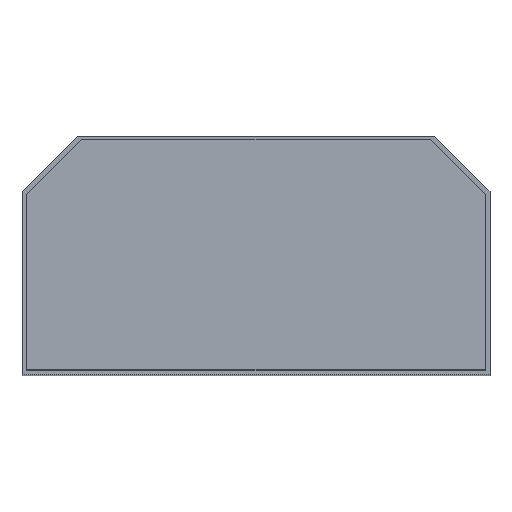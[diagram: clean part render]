
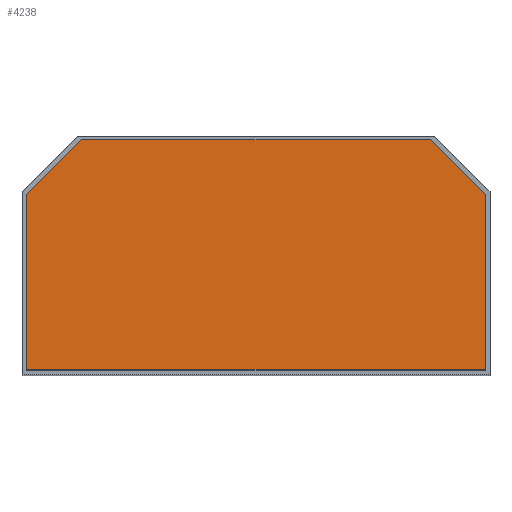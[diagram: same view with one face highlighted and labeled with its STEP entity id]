
A CAD part, top view. The second image highlights one B-rep face of the part: STEP entity #4238.
In plain terms, the highlighted planar face has unit normal (0, 0, 1).
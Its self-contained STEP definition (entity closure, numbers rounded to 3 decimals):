
#3793 = PLANE('',#3794);
#3794 = AXIS2_PLACEMENT_3D('',#3795,#3796,#3797);
#3795 = CARTESIAN_POINT('',(3.8,2.5,8.6));
#3796 = DIRECTION('',(0.,-1.,0.));
#3797 = DIRECTION('',(-1.,0.,0.));
#3819 = PLANE('',#3820);
#3820 = AXIS2_PLACEMENT_3D('',#3821,#3822,#3823);
#3821 = CARTESIAN_POINT('',(-3.8,2.5,8.6));
#3822 = DIRECTION('',(0.707,-0.707,0.));
#3823 = DIRECTION('',(-0.707,-0.707,0.));
#3845 = PLANE('',#3846);
#3846 = AXIS2_PLACEMENT_3D('',#3847,#3848,#3849);
#3847 = CARTESIAN_POINT('',(-5.,1.3,8.6));
#3848 = DIRECTION('',(1.,0.,-0.));
#3849 = DIRECTION('',(0.,-1.,0.));
#3871 = PLANE('',#3872);
#3872 = AXIS2_PLACEMENT_3D('',#3873,#3874,#3875);
#3873 = CARTESIAN_POINT('',(-5.,-2.5,8.6));
#3874 = DIRECTION('',(0.,1.,0.));
#3875 = DIRECTION('',(1.,0.,0.));
#3897 = PLANE('',#3898);
#3898 = AXIS2_PLACEMENT_3D('',#3899,#3900,#3901);
#3899 = CARTESIAN_POINT('',(5.,-2.5,8.6));
#3900 = DIRECTION('',(-1.,0.,0.));
#3901 = DIRECTION('',(0.,1.,0.));
#3921 = PLANE('',#3922);
#3922 = AXIS2_PLACEMENT_3D('',#3923,#3924,#3925);
#3923 = CARTESIAN_POINT('',(5.,1.3,8.6));
#3924 = DIRECTION('',(-0.707,-0.707,0.));
#3925 = DIRECTION('',(-0.707,0.707,0.));
#3945 = VERTEX_POINT('',#3946);
#3946 = CARTESIAN_POINT('',(3.8,2.5,22.));
#3967 = EDGE_CURVE('',#3945,#3968,#3970,.T.);
#3968 = VERTEX_POINT('',#3969);
#3969 = CARTESIAN_POINT('',(-3.8,2.5,22.));
#3970 = SURFACE_CURVE('',#3971,(#3975,#3982),.PCURVE_S1.);
#3971 = LINE('',#3972,#3973);
#3972 = CARTESIAN_POINT('',(3.8,2.5,22.));
#3973 = VECTOR('',#3974,1.);
#3974 = DIRECTION('',(-1.,0.,0.));
#3975 = PCURVE('',#3793,#3976);
#3976 = DEFINITIONAL_REPRESENTATION('',(#3977),#3981);
#3977 = LINE('',#3978,#3979);
#3978 = CARTESIAN_POINT('',(0.,-13.4));
#3979 = VECTOR('',#3980,1.);
#3980 = DIRECTION('',(1.,0.));
#3981 = ( GEOMETRIC_REPRESENTATION_CONTEXT(2) 
PARAMETRIC_REPRESENTATION_CONTEXT() REPRESENTATION_CONTEXT('2D SPACE',''
  ) );
#3982 = PCURVE('',#3983,#3988);
#3983 = PLANE('',#3984);
#3984 = AXIS2_PLACEMENT_3D('',#3985,#3986,#3987);
#3985 = CARTESIAN_POINT('',(0.,-0.144,22.));
#3986 = DIRECTION('',(0.,0.,1.));
#3987 = DIRECTION('',(1.,0.,-0.));
#3988 = DEFINITIONAL_REPRESENTATION('',(#3989),#3993);
#3989 = LINE('',#3990,#3991);
#3990 = CARTESIAN_POINT('',(3.8,2.644));
#3991 = VECTOR('',#3992,1.);
#3992 = DIRECTION('',(-1.,0.));
#3993 = ( GEOMETRIC_REPRESENTATION_CONTEXT(2) 
PARAMETRIC_REPRESENTATION_CONTEXT() REPRESENTATION_CONTEXT('2D SPACE',''
  ) );
#4021 = VERTEX_POINT('',#4022);
#4022 = CARTESIAN_POINT('',(5.,1.3,22.));
#4043 = EDGE_CURVE('',#4021,#3945,#4044,.T.);
#4044 = SURFACE_CURVE('',#4045,(#4049,#4056),.PCURVE_S1.);
#4045 = LINE('',#4046,#4047);
#4046 = CARTESIAN_POINT('',(5.,1.3,22.));
#4047 = VECTOR('',#4048,1.);
#4048 = DIRECTION('',(-0.707,0.707,0.));
#4049 = PCURVE('',#3921,#4050);
#4050 = DEFINITIONAL_REPRESENTATION('',(#4051),#4055);
#4051 = LINE('',#4052,#4053);
#4052 = CARTESIAN_POINT('',(0.,-13.4));
#4053 = VECTOR('',#4054,1.);
#4054 = DIRECTION('',(1.,0.));
#4055 = ( GEOMETRIC_REPRESENTATION_CONTEXT(2) 
PARAMETRIC_REPRESENTATION_CONTEXT() REPRESENTATION_CONTEXT('2D SPACE',''
  ) );
#4056 = PCURVE('',#3983,#4057);
#4057 = DEFINITIONAL_REPRESENTATION('',(#4058),#4062);
#4058 = LINE('',#4059,#4060);
#4059 = CARTESIAN_POINT('',(5.,1.444));
#4060 = VECTOR('',#4061,1.);
#4061 = DIRECTION('',(-0.707,0.707));
#4062 = ( GEOMETRIC_REPRESENTATION_CONTEXT(2) 
PARAMETRIC_REPRESENTATION_CONTEXT() REPRESENTATION_CONTEXT('2D SPACE',''
  ) );
#4070 = EDGE_CURVE('',#3968,#4071,#4073,.T.);
#4071 = VERTEX_POINT('',#4072);
#4072 = CARTESIAN_POINT('',(-5.,1.3,22.));
#4073 = SURFACE_CURVE('',#4074,(#4078,#4085),.PCURVE_S1.);
#4074 = LINE('',#4075,#4076);
#4075 = CARTESIAN_POINT('',(-3.8,2.5,22.));
#4076 = VECTOR('',#4077,1.);
#4077 = DIRECTION('',(-0.707,-0.707,0.));
#4078 = PCURVE('',#3819,#4079);
#4079 = DEFINITIONAL_REPRESENTATION('',(#4080),#4084);
#4080 = LINE('',#4081,#4082);
#4081 = CARTESIAN_POINT('',(0.,-13.4));
#4082 = VECTOR('',#4083,1.);
#4083 = DIRECTION('',(1.,0.));
#4084 = ( GEOMETRIC_REPRESENTATION_CONTEXT(2) 
PARAMETRIC_REPRESENTATION_CONTEXT() REPRESENTATION_CONTEXT('2D SPACE',''
  ) );
#4085 = PCURVE('',#3983,#4086);
#4086 = DEFINITIONAL_REPRESENTATION('',(#4087),#4091);
#4087 = LINE('',#4088,#4089);
#4088 = CARTESIAN_POINT('',(-3.8,2.644));
#4089 = VECTOR('',#4090,1.);
#4090 = DIRECTION('',(-0.707,-0.707));
#4091 = ( GEOMETRIC_REPRESENTATION_CONTEXT(2) 
PARAMETRIC_REPRESENTATION_CONTEXT() REPRESENTATION_CONTEXT('2D SPACE',''
  ) );
#4119 = VERTEX_POINT('',#4120);
#4120 = CARTESIAN_POINT('',(5.,-2.5,22.));
#4141 = EDGE_CURVE('',#4119,#4021,#4142,.T.);
#4142 = SURFACE_CURVE('',#4143,(#4147,#4154),.PCURVE_S1.);
#4143 = LINE('',#4144,#4145);
#4144 = CARTESIAN_POINT('',(5.,-2.5,22.));
#4145 = VECTOR('',#4146,1.);
#4146 = DIRECTION('',(0.,1.,0.));
#4147 = PCURVE('',#3897,#4148);
#4148 = DEFINITIONAL_REPRESENTATION('',(#4149),#4153);
#4149 = LINE('',#4150,#4151);
#4150 = CARTESIAN_POINT('',(0.,-13.4));
#4151 = VECTOR('',#4152,1.);
#4152 = DIRECTION('',(1.,0.));
#4153 = ( GEOMETRIC_REPRESENTATION_CONTEXT(2) 
PARAMETRIC_REPRESENTATION_CONTEXT() REPRESENTATION_CONTEXT('2D SPACE',''
  ) );
#4154 = PCURVE('',#3983,#4155);
#4155 = DEFINITIONAL_REPRESENTATION('',(#4156),#4160);
#4156 = LINE('',#4157,#4158);
#4157 = CARTESIAN_POINT('',(5.,-2.356));
#4158 = VECTOR('',#4159,1.);
#4159 = DIRECTION('',(0.,1.));
#4160 = ( GEOMETRIC_REPRESENTATION_CONTEXT(2) 
PARAMETRIC_REPRESENTATION_CONTEXT() REPRESENTATION_CONTEXT('2D SPACE',''
  ) );
#4168 = EDGE_CURVE('',#4071,#4169,#4171,.T.);
#4169 = VERTEX_POINT('',#4170);
#4170 = CARTESIAN_POINT('',(-5.,-2.5,22.));
#4171 = SURFACE_CURVE('',#4172,(#4176,#4183),.PCURVE_S1.);
#4172 = LINE('',#4173,#4174);
#4173 = CARTESIAN_POINT('',(-5.,1.3,22.));
#4174 = VECTOR('',#4175,1.);
#4175 = DIRECTION('',(0.,-1.,0.));
#4176 = PCURVE('',#3845,#4177);
#4177 = DEFINITIONAL_REPRESENTATION('',(#4178),#4182);
#4178 = LINE('',#4179,#4180);
#4179 = CARTESIAN_POINT('',(0.,-13.4));
#4180 = VECTOR('',#4181,1.);
#4181 = DIRECTION('',(1.,0.));
#4182 = ( GEOMETRIC_REPRESENTATION_CONTEXT(2) 
PARAMETRIC_REPRESENTATION_CONTEXT() REPRESENTATION_CONTEXT('2D SPACE',''
  ) );
#4183 = PCURVE('',#3983,#4184);
#4184 = DEFINITIONAL_REPRESENTATION('',(#4185),#4189);
#4185 = LINE('',#4186,#4187);
#4186 = CARTESIAN_POINT('',(-5.,1.444));
#4187 = VECTOR('',#4188,1.);
#4188 = DIRECTION('',(0.,-1.));
#4189 = ( GEOMETRIC_REPRESENTATION_CONTEXT(2) 
PARAMETRIC_REPRESENTATION_CONTEXT() REPRESENTATION_CONTEXT('2D SPACE',''
  ) );
#4217 = EDGE_CURVE('',#4169,#4119,#4218,.T.);
#4218 = SURFACE_CURVE('',#4219,(#4223,#4230),.PCURVE_S1.);
#4219 = LINE('',#4220,#4221);
#4220 = CARTESIAN_POINT('',(-5.,-2.5,22.));
#4221 = VECTOR('',#4222,1.);
#4222 = DIRECTION('',(1.,0.,0.));
#4223 = PCURVE('',#3871,#4224);
#4224 = DEFINITIONAL_REPRESENTATION('',(#4225),#4229);
#4225 = LINE('',#4226,#4227);
#4226 = CARTESIAN_POINT('',(0.,-13.4));
#4227 = VECTOR('',#4228,1.);
#4228 = DIRECTION('',(1.,0.));
#4229 = ( GEOMETRIC_REPRESENTATION_CONTEXT(2) 
PARAMETRIC_REPRESENTATION_CONTEXT() REPRESENTATION_CONTEXT('2D SPACE',''
  ) );
#4230 = PCURVE('',#3983,#4231);
#4231 = DEFINITIONAL_REPRESENTATION('',(#4232),#4236);
#4232 = LINE('',#4233,#4234);
#4233 = CARTESIAN_POINT('',(-5.,-2.356));
#4234 = VECTOR('',#4235,1.);
#4235 = DIRECTION('',(1.,0.));
#4236 = ( GEOMETRIC_REPRESENTATION_CONTEXT(2) 
PARAMETRIC_REPRESENTATION_CONTEXT() REPRESENTATION_CONTEXT('2D SPACE',''
  ) );
#4238 = ADVANCED_FACE('',(#4239),#3983,.T.);
#4239 = FACE_BOUND('',#4240,.T.);
#4240 = EDGE_LOOP('',(#4241,#4242,#4243,#4244,#4245,#4246));
#4241 = ORIENTED_EDGE('',*,*,#4217,.T.);
#4242 = ORIENTED_EDGE('',*,*,#4141,.T.);
#4243 = ORIENTED_EDGE('',*,*,#4043,.T.);
#4244 = ORIENTED_EDGE('',*,*,#3967,.T.);
#4245 = ORIENTED_EDGE('',*,*,#4070,.T.);
#4246 = ORIENTED_EDGE('',*,*,#4168,.T.);
